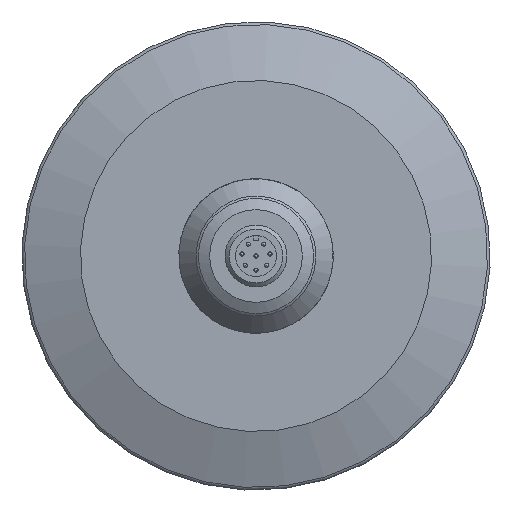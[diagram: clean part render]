
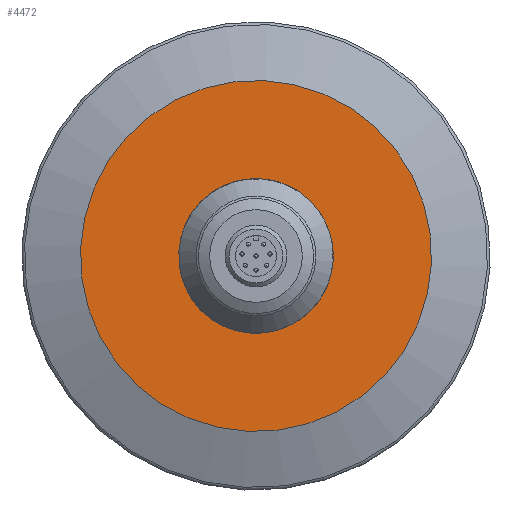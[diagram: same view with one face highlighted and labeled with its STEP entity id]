
A CAD part, front view. The second image highlights one B-rep face of the part: STEP entity #4472.
In plain terms, the highlighted planar face has unit normal (0, -1, 0).
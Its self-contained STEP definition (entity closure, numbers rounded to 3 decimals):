
#656=PLANE('',#4695);
#729=ORIENTED_EDGE('',*,*,#1620,.T.);
#730=ORIENTED_EDGE('',*,*,#1619,.F.);
#1619=EDGE_CURVE('',#2069,#2069,#2375,.T.);
#1620=EDGE_CURVE('',#2070,#2070,#2376,.F.);
#2069=VERTEX_POINT('',#5480);
#2070=VERTEX_POINT('',#5483);
#2375=CIRCLE('',#4694,34.098);
#2376=CIRCLE('',#4696,15.);
#2479=EDGE_LOOP('',(#729));
#2480=EDGE_LOOP('',(#730));
#2747=FACE_BOUND('',#2479,.T.);
#2748=FACE_BOUND('',#2480,.T.);
#4472=ADVANCED_FACE('',(#2747,#2748),#656,.T.);
#4694=AXIS2_PLACEMENT_3D('',#5479,#4928,#4929);
#4695=AXIS2_PLACEMENT_3D('',#5481,#4930,#4931);
#4696=AXIS2_PLACEMENT_3D('',#5482,#4932,#4933);
#4928=DIRECTION('',(0.,1.,0.));
#4929=DIRECTION('',(0.999,0.,-0.049));
#4930=DIRECTION('',(0.,-1.,0.));
#4931=DIRECTION('',(-0.999,0.,0.049));
#4932=DIRECTION('',(0.,-1.,0.));
#4933=DIRECTION('',(1.,0.,0.));
#5479=CARTESIAN_POINT('',(0.,-2.005,0.));
#5480=CARTESIAN_POINT('',(34.058,-2.005,-1.657));
#5481=CARTESIAN_POINT('',(17.097,-2.005,-0.832));
#5482=CARTESIAN_POINT('',(0.,-2.005,0.));
#5483=CARTESIAN_POINT('',(15.,-2.005,0.));
